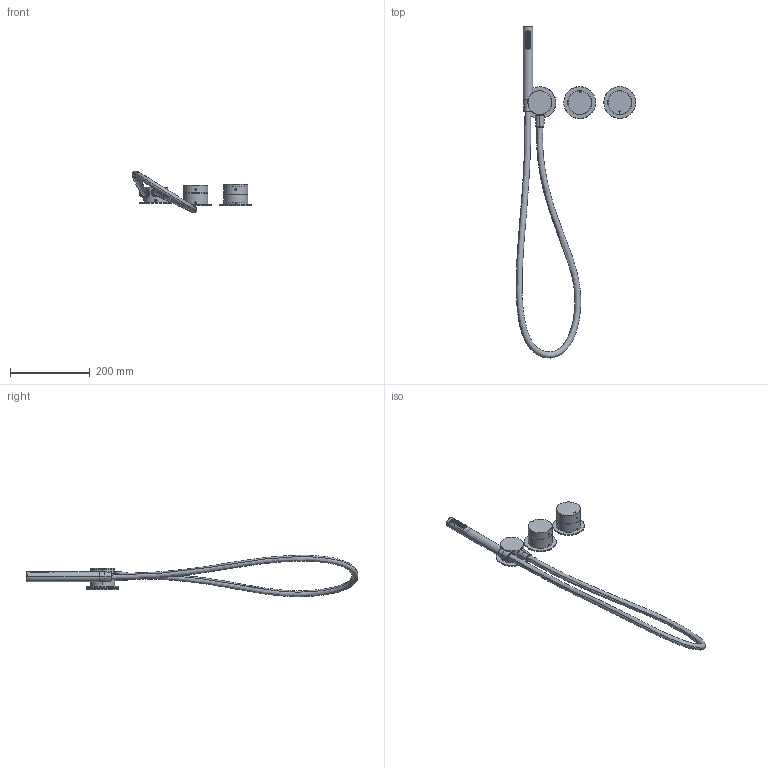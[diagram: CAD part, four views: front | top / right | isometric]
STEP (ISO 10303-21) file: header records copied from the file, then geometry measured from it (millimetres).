
FILE_DESCRIPTION((''),'2;1');
FILE_NAME('0000192067','2023-09-27T13:54:34',('matteo.follador'),(''),'CREO PARAMETRIC BY PTC INC, 2022424','CREO PARAMETRIC BY PTC INC, 2022424','');
FILE_SCHEMA(('AUTOMOTIVE_DESIGN { 1 0 10303 214 1 1 1 1 }'));
Length unit declared in the file: millimetre
Products named in the file (1): 0000192067
Bounding box: 299.09 x 830.3 x 103.47 mm (x, y, z)
Volume: 625285.9 mm3; surface area: 181159.1 mm2
Topology: 3 solids, 5 shells, 513 faces, 1126 edges, 737 vertices
Faces by surface type: cylinder 315, plane 106, cone 62, bspline 19, extrusion 7, torus 4
Entity records: 25464 total; most frequent: CARTESIAN_POINT 11046, ORIENTED_EDGE 2252, DIRECTION 2193, EDGE_CURVE 1126, AXIS2_PLACEMENT_3D 880, VERTEX_POINT 737, EDGE_LOOP 637, FACE_OUTER_BOUND 513
